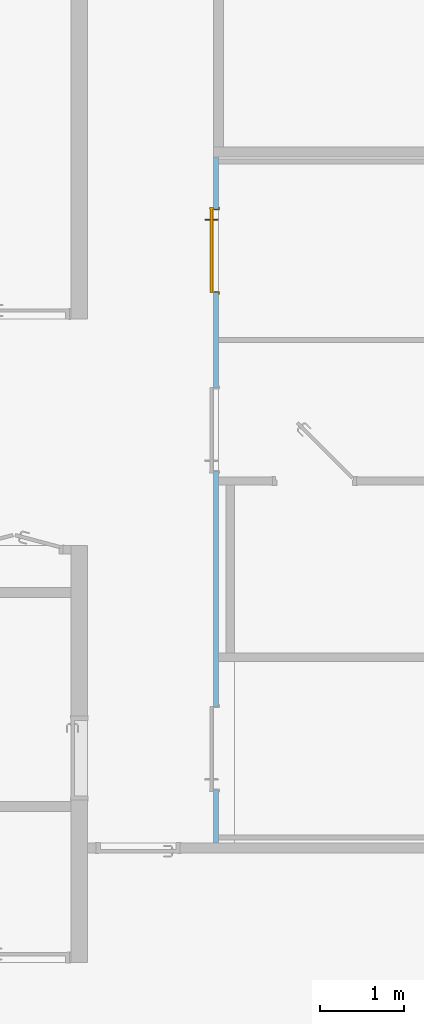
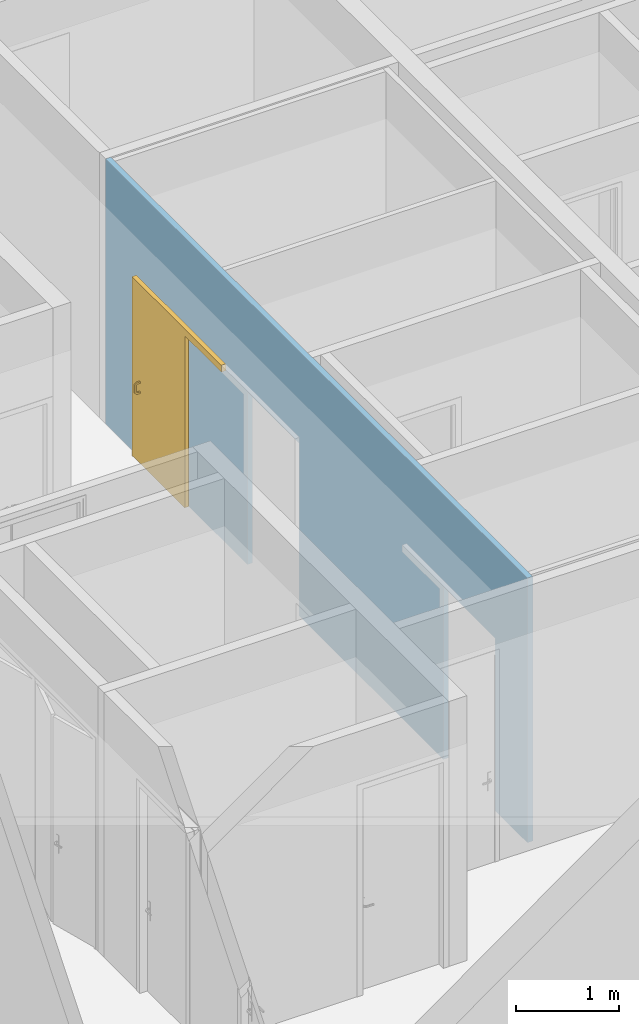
# One storey, part 198 of 240: 1 door, 3 openings, plus 1 element that does not belong to this part.
"""IFC2X3 building model written with IfcOpenShell, lengths in centimetres."""

from ifc_helpers import new_model, entity, si_unit, converted_unit, derived_unit, direction, frame, frame_2d, origin, place, context, subcontext, project, spatial, rectangle, extrude, faceted_brep, source, transform, mapped, material, material_list, layer, layer_set, layer_usage, type_object, type_shapes, element, fill, save


model = new_model("IFC2X3")

# Units and contexts
model_context = context("Model", 3, precision=0.001, world=origin(), true_north=direction((6.12303176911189e-17, 1.0)))
body_context = subcontext(model_context, "Body", "Model", "MODEL_VIEW")
ifc_project = project(units=[si_unit("LENGTHUNIT", "METRE", prefix="CENTI"), si_unit("AREAUNIT", "SQUARE_METRE"), si_unit("VOLUMEUNIT", "CUBIC_METRE"), converted_unit("PLANEANGLEUNIT", "DEGREE", entity("IfcRatioMeasure", 0.0174532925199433), si_unit("PLANEANGLEUNIT", "RADIAN"), dimensions=[0, 0, 0, 0, 0, 0, 0]), si_unit("MASSUNIT", "GRAM", prefix="KILO"), derived_unit("MASSDENSITYUNIT", [(si_unit("MASSUNIT", "GRAM", prefix="KILO"), 1), (si_unit("LENGTHUNIT", "METRE"), -3)]), si_unit("TIMEUNIT", "SECOND"), si_unit("FREQUENCYUNIT", "HERTZ"), si_unit("THERMODYNAMICTEMPERATUREUNIT", "DEGREE_CELSIUS"), derived_unit("THERMALTRANSMITTANCEUNIT", [(si_unit("MASSUNIT", "GRAM", prefix="KILO"), 1), (si_unit("THERMODYNAMICTEMPERATUREUNIT", "KELVIN"), -1), (si_unit("TIMEUNIT", "SECOND"), -3)]), derived_unit("VOLUMETRICFLOWRATEUNIT", [(si_unit("LENGTHUNIT", "METRE"), 3), (si_unit("TIMEUNIT", "SECOND"), -1)]), si_unit("ELECTRICCURRENTUNIT", "AMPERE"), si_unit("ELECTRICVOLTAGEUNIT", "VOLT"), si_unit("POWERUNIT", "WATT"), si_unit("FORCEUNIT", "NEWTON", prefix="KILO"), si_unit("ILLUMINANCEUNIT", "LUX"), si_unit("LUMINOUSFLUXUNIT", "LUMEN"), si_unit("LUMINOUSINTENSITYUNIT", "CANDELA"), derived_unit("USERDEFINED", [(si_unit("MASSUNIT", "GRAM", prefix="KILO"), -1), (si_unit("LENGTHUNIT", "METRE"), -2), (si_unit("TIMEUNIT", "SECOND"), 3), (si_unit("LUMINOUSFLUXUNIT", "LUMEN"), 1)]), derived_unit("LINEARVELOCITYUNIT", [(si_unit("LENGTHUNIT", "METRE"), 1), (si_unit("TIMEUNIT", "SECOND"), -1)]), si_unit("PRESSUREUNIT", "PASCAL"), derived_unit("USERDEFINED", [(si_unit("LENGTHUNIT", "METRE"), -2), (si_unit("MASSUNIT", "GRAM", prefix="KILO"), 1), (si_unit("TIMEUNIT", "SECOND"), -2)])], contexts=[model_context])

# Site, building, storey
site_placement = place(None, frame((-2781.94577612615, 7442.24238424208, 0.0)))
site = spatial("IfcSite", under=ifc_project, at=site_placement, Name="Default", CompositionType="ELEMENT")
building_placement = place(site_placement, origin())
building = spatial("IfcBuilding", under=site, at=building_placement, CompositionType="ELEMENT")
storey_placement = place(building_placement, origin())
storey = spatial("IfcBuildingStorey", under=building, at=storey_placement, Name="N00 - COO", CompositionType="ELEMENT", Elevation=0.0)

# Wall, openings, door
ifc_material_1 = material(Name="Plastique, blanc opaque")
ifc_layer_1 = layer(ifc_material_1, 0.2)
ifc_material_2 = material(Name="00 - Isolant cloison Frigo")
ifc_layer_2 = layer(ifc_material_2, 5.6)
ifc_layer_3 = layer(ifc_material_1, 0.2)
ifc_layer_set = layer_set([ifc_layer_1, ifc_layer_2, ifc_layer_3], Name="Mur de base:06 - cloisons - cuisine 6cm")
ifc_layer_usage = layer_usage(ifc_layer_set, "AXIS2", "NEGATIVE", 3.0)
wall_type = type_object("IfcWallType", Name="Mur de base:06 - cloisons - cuisine 6cm", PredefinedType="STANDARD", material=ifc_layer_set)
wall_placement = place(building_placement, frame((-10021.8417569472, -2210.35320515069, 0.0), z_axis=(0.0, 0.0, 1.0), x_axis=(0.0, -1.0, 0.0)))
wall = element("IfcWallStandardCase", 1, at=wall_placement, inside=storey, type_object=wall_type, material=ifc_layer_usage, Name="Mur de base:06 - cloisons - cuisine 6cm", ObjectType="Mur de base:06 - cloisons - cuisine 6cm", context=body_context, shape_type="SweptSolid", body=[
    extrude(rectangle(XDim=817.168601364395, YDim=5.99999999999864, at=frame_2d((408.584300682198, -3.75699471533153e-13), x_axis=(-1.0, 0.0))), origin(), (0.0, 0.0, 1.0), 313.0),
])
opening_1_placement = place(wall_placement, frame((61.5219892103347, -3.0, 0.0)))
opening_1 = element("IfcOpeningElement", 2, at=opening_1_placement, cuts=wall, Name="Coulissante - Apparente:PM 0.80m x 2.04m 2:1", ObjectType="Opening", context=body_context, shape_type="SweptSolid", body=[
    extrude(rectangle(XDim=203.999999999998, YDim=99.9999999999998, at=frame_2d((101.999999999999, 49.9999999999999), x_axis=(1.0, 0.0))), frame((0.0, 0.0, 0.0), z_axis=(0.0, 1.0, 0.0), x_axis=(0.0, 0.0, 1.0)), (0.0, 0.0, 1.0), 6.0),
])
opening_2_placement = place(wall_placement, frame((274.713351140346, -3.0, 0.0)))
element("IfcOpeningElement", 3, at=opening_2_placement, cuts=wall, Name="Coulissante - Apparente:PM 0.80m x 2.04m 2:1", ObjectType="Opening", context=body_context, shape_type="SweptSolid", body=[
    extrude(rectangle(XDim=203.999999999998, YDim=99.9999999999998, at=frame_2d((101.999999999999, 49.9999999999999), x_axis=(1.0, 0.0))), frame((0.0, 0.0, 0.0), z_axis=(0.0, 1.0, 0.0), x_axis=(0.0, 0.0, 1.0)), (0.0, 0.0, 1.0), 6.0),
])
opening_3_placement = place(wall_placement, frame((654.460651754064, -3.0, 0.0)))
element("IfcOpeningElement", 4, at=opening_3_placement, cuts=wall, Name="Coulissante - Apparente:PM 0.80m x 2.04m 2:1", ObjectType="Opening", context=body_context, shape_type="SweptSolid", body=[
    extrude(rectangle(XDim=203.999999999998, YDim=99.9999999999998, at=frame_2d((101.999999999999, 49.9999999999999), x_axis=(1.0, 0.0))), frame((0.0, 0.0, 0.0), z_axis=(0.0, 1.0, 0.0), x_axis=(0.0, 0.0, 1.0)), (0.0, 0.0, 1.0), 6.0),
])
ifc_material_3 = material(Name="Bois - Panneau de porte")
ifc_material_4 = material(Name="Bois - Cadre de porte")
ifc_material_list_1 = material_list([ifc_material_3, ifc_material_4])
ifc_material_list_2 = material_list([ifc_material_3, ifc_material_4])
door_style = type_object("IfcDoorStyle", Name="PM 0.80m x 2.04m 2", ConstructionType="NOTDEFINED", OperationType="NOTDEFINED", ParameterTakesPrecedence=False, Sizeable=False, material=ifc_material_list_2)
shared_shape = source(origin(), body_context, "Body", "Brep", [
    faceted_brep([(13.1967625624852, -0.499999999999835, 97.068339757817), (12.7606846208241, -0.499999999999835, 96.9), (12.7606846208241, -0.499999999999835, 95.1000000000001), (13.1967625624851, -0.499999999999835, 94.931660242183), (13.6606846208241, -0.499999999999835, 94.874401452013), (14.1246066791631, -0.499999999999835, 94.931660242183), (14.5606846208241, -0.499999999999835, 95.1000000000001), (14.5606846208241, -0.499999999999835, 96.9), (14.1246066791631, -0.499999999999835, 97.068339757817), (13.6606846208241, -0.499999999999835, 97.1255985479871), (13.1967625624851, -0.499999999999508, 82.9316602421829), (13.6606846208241, -0.499999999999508, 82.8744014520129), (14.1246066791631, -0.499999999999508, 82.9316602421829), (14.5606846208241, -0.499999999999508, 83.1), (14.5606846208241, -0.499999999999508, 84.8999999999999), (14.124606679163, -0.499999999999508, 85.0683397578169), (13.6606846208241, -0.499999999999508, 85.125598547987), (13.1967625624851, -0.499999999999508, 85.0683397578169), (12.7606846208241, -0.499999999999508, 84.8999999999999), (12.7606846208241, -0.499999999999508, 83.1), (14.5606846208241, 3.37279220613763, 83.1), (14.5606846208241, 5.40000000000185, 85.1272077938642), (14.5606846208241, 5.40000000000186, 94.8727922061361), (14.5606846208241, 3.37279220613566, 96.9), (14.5606846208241, 2.62720779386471, 95.1000000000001), (14.5606846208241, 3.60000000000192, 94.1272077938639), (14.5606846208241, 3.60000000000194, 85.8727922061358), (14.5606846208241, 2.62720779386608, 84.8999999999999), (14.1246066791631, 3.44252081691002, 97.068339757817), (13.6606846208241, 3.46623818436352, 97.1255985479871), (13.1967625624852, 3.44252081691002, 97.0683397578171), (12.7606846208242, 3.37279220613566, 96.9), (12.7606846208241, 5.40000000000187, 94.8727922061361), (12.7606846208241, 5.40000000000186, 85.1272077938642), (12.7606846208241, 3.37279220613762, 83.1), (12.7606846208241, 2.62720779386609, 84.8999999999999), (12.7606846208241, 3.60000000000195, 85.8727922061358), (12.7606846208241, 3.60000000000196, 94.1272077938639), (12.7606846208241, 2.62720779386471, 95.1000000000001), (13.1967625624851, 2.55747918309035, 94.9316602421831), (13.6606846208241, 2.53376181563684, 94.874401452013), (14.124606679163, 2.55747918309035, 94.931660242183), (14.1246066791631, 5.56833975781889, 94.9425208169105), (13.6606846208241, 5.62559854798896, 94.9662381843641), (13.1967625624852, 5.56833975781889, 94.9425208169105), (13.1967625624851, 3.43166024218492, 94.0574791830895), (13.6606846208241, 3.37440145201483, 94.0337618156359), (14.124606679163, 3.4316602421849, 94.0574791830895), (14.1246066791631, 5.56833975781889, 85.0574791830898), (13.6606846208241, 5.62559854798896, 85.0337618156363), (13.1967625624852, 5.56833975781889, 85.0574791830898), (13.1967625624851, 3.43166024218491, 85.9425208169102), (13.6606846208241, 3.37440145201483, 85.9662381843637), (14.124606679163, 3.43166024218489, 85.9425208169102), (14.1246066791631, 3.44252081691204, 82.9316602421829), (13.6606846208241, 3.46623818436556, 82.8744014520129), (13.1967625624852, 3.44252081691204, 82.9316602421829), (13.1967625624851, 2.55747918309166, 85.0683397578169), (13.6606846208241, 2.53376181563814, 85.125598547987), (14.124606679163, 2.55747918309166, 85.068339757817)], [[[0, 1, 2, 3, 4, 5, 6, 7, 8, 9]], [[10, 11, 12, 13, 14, 15, 16, 17, 18, 19]], [[13, 20, 21, 22, 23, 7, 6, 24, 25, 26, 27, 14]], [[23, 28, 8, 7]], [[8, 28, 29, 9]], [[30, 0, 9, 29]], [[0, 30, 31, 1]], [[1, 31, 32, 33, 34, 19, 18, 35, 36, 37, 38, 2]], [[38, 39, 3, 2]], [[4, 3, 39, 40]], [[41, 24, 6, 5]], [[41, 5, 4, 40]], [[22, 42, 28, 23]], [[28, 42, 43, 29]], [[43, 44, 30, 29]], [[44, 32, 31, 30]], [[37, 45, 39, 38]], [[39, 45, 46, 40]], [[47, 25, 24, 41]], [[41, 40, 46, 47]], [[21, 48, 42, 22]], [[42, 48, 49, 43]], [[49, 50, 44, 43]], [[50, 33, 32, 44]], [[36, 51, 45, 37]], [[46, 45, 51, 52]], [[53, 26, 25, 47]], [[53, 47, 46, 52]], [[20, 54, 48, 21]], [[48, 54, 55, 49]], [[55, 56, 50, 49]], [[56, 34, 33, 50]], [[35, 57, 51, 36]], [[51, 57, 58, 52]], [[59, 27, 26, 53]], [[53, 52, 58, 59]], [[13, 12, 54, 20]], [[55, 54, 12, 11]], [[10, 19, 34, 56]], [[10, 56, 55, 11]], [[18, 17, 57, 35]], [[58, 57, 17, 16]], [[15, 14, 27, 59]], [[59, 58, 16, 15]]]),
    faceted_brep([(13.6606846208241, -4.49999999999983, 97.1255985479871), (14.1246066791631, -4.49999999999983, 97.068339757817), (14.5606846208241, -4.49999999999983, 96.9), (14.5606846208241, -4.49999999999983, 95.1000000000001), (14.1246066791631, -4.49999999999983, 94.931660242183), (13.6606846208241, -4.49999999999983, 94.874401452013), (13.1967625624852, -4.49999999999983, 94.931660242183), (12.7606846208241, -4.49999999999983, 95.1000000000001), (12.7606846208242, -4.49999999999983, 96.9), (13.1967625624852, -4.49999999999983, 97.068339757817), (13.6606846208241, -4.49999999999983, 82.8744014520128), (13.1967625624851, -4.49999999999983, 82.9316602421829), (12.7606846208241, -4.49999999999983, 83.1), (12.7606846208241, -4.49999999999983, 84.8999999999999), (13.1967625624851, -4.49999999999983, 85.0683397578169), (13.6606846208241, -4.49999999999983, 85.125598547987), (14.1246066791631, -4.49999999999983, 85.0683397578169), (14.5606846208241, -4.49999999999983, 84.8999999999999), (14.5606846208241, -4.49999999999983, 83.1), (14.1246066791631, -4.49999999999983, 82.9316602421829), (12.7606846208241, -8.37279220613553, 96.9), (13.1967625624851, -8.44252081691, 97.068339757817), (13.6606846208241, -8.46623818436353, 97.1255985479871), (14.1246066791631, -8.44252081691, 97.0683397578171), (14.5606846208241, -8.37279220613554, 96.9), (14.5606846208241, -10.3999999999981, 94.8727922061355), (14.5606846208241, -10.3999999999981, 85.1272077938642), (14.5606846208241, -8.37279220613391, 83.1), (14.5606846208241, -7.62720779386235, 84.8999999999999), (14.5606846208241, -8.59999999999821, 85.8727922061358), (14.5606846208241, -8.59999999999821, 94.1272077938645), (14.5606846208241, -7.62720779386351, 95.1000000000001), (14.1246066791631, -7.55747918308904, 94.931660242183), (13.6606846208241, -7.53376181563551, 94.874401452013), (13.1967625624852, -7.55747918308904, 94.931660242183), (12.7606846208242, -7.62720779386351, 95.1000000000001), (12.7606846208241, -8.3727922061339, 83.1), (12.7606846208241, -10.3999999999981, 85.1272077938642), (12.7606846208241, -10.3999999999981, 94.8727922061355), (12.7606846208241, -8.59999999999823, 94.1272077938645), (12.7606846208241, -8.59999999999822, 85.8727922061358), (12.7606846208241, -7.62720779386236, 84.8999999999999), (13.1967625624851, -10.5683397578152, 94.9425208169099), (13.6606846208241, -10.6255985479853, 94.9662381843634), (14.1246066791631, -10.5683397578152, 94.9425208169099), (14.1246066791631, -8.43166024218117, 94.0574791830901), (13.6606846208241, -8.3744014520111, 94.0337618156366), (13.1967625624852, -8.43166024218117, 94.0574791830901), (13.1967625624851, -10.5683397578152, 85.0574791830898), (13.6606846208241, -10.6255985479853, 85.0337618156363), (14.124606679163, -10.5683397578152, 85.0574791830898), (14.1246066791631, -8.43166024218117, 85.9425208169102), (13.6606846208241, -8.3744014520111, 85.9662381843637), (13.1967625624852, -8.43166024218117, 85.9425208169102), (13.1967625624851, -8.44252081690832, 82.9316602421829), (13.6606846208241, -8.46623818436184, 82.8744014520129), (14.124606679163, -8.44252081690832, 82.9316602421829), (14.1246066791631, -7.55747918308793, 85.0683397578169), (13.6606846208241, -7.53376181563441, 85.125598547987), (13.1967625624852, -7.55747918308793, 85.0683397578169)], [[[0, 1, 2, 3, 4, 5, 6, 7, 8, 9]], [[10, 11, 12, 13, 14, 15, 16, 17, 18, 19]], [[20, 21, 9, 8]], [[9, 21, 22, 0]], [[23, 1, 0, 22]], [[1, 23, 24, 2]], [[2, 24, 25, 26, 27, 18, 17, 28, 29, 30, 31, 3]], [[31, 32, 4, 3]], [[5, 4, 32, 33]], [[34, 35, 7, 6]], [[34, 6, 5, 33]], [[12, 36, 37, 38, 20, 8, 7, 35, 39, 40, 41, 13]], [[38, 42, 21, 20]], [[21, 42, 43, 22]], [[43, 44, 23, 22]], [[44, 25, 24, 23]], [[30, 45, 32, 31]], [[32, 45, 46, 33]], [[47, 39, 35, 34]], [[34, 33, 46, 47]], [[37, 48, 42, 38]], [[42, 48, 49, 43]], [[49, 50, 44, 43]], [[50, 26, 25, 44]], [[29, 51, 45, 30]], [[46, 45, 51, 52]], [[53, 40, 39, 47]], [[53, 47, 46, 52]], [[36, 54, 48, 37]], [[48, 54, 55, 49]], [[55, 56, 50, 49]], [[56, 27, 26, 50]], [[28, 57, 51, 29]], [[51, 57, 58, 52]], [[59, 41, 40, 53]], [[53, 52, 58, 59]], [[12, 11, 54, 36]], [[55, 54, 11, 10]], [[19, 18, 27, 56]], [[19, 56, 55, 10]], [[17, 16, 57, 28]], [[58, 57, 16, 15]], [[14, 13, 41, 59]], [[59, 58, 15, 14]]]),
    faceted_brep([(100.660684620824, 6.0, 0.0), (100.660684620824, 0.0, 0.0), (99.1606846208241, 0.0, 0.0), (99.1606846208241, 6.80000000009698, 0.0), (102.660684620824, 6.80000000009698, 0.0), (102.660684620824, 6.0, 0.0), (102.660684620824, 6.0, 206.0), (-1.33931537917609, 6.0, 206.0), (-1.33931537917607, 6.0, 0.0), (0.660684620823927, 6.0, 0.0), (0.660684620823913, 6.0, 204.0), (100.660684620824, 6.0, 204.0), (102.660684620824, 6.80000000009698, 206.0), (99.1606846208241, 6.80000000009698, 202.499999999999), (2.16068462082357, 6.80000000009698, 202.499999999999), (2.16068462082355, 6.80000000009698, 0.0), (-1.33931537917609, 6.80000000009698, 0.0), (-1.33931537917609, 6.80000000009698, 206.0), (99.1606846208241, 0.0, 202.499999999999), (100.660684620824, 0.0, 204.0), (0.660684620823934, 0.0, 204.0), (0.660684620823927, 0.0, 0.0), (2.16068462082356, 0.0, 0.0), (2.16068462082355, 0.0, 202.499999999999)], [[[0, 1, 2, 3, 4, 5]], [[5, 6, 7, 8, 9, 10, 11, 0]], [[4, 12, 6, 5]], [[3, 13, 14, 15, 16, 17, 12, 4]], [[2, 18, 13, 3]], [[1, 19, 20, 21, 22, 23, 18, 2]], [[0, 11, 19, 1]], [[12, 17, 7, 6]], [[18, 23, 14, 13]], [[11, 10, 20, 19]], [[9, 8, 16, 15, 22, 21]], [[17, 16, 8, 7]], [[23, 22, 15, 14]], [[10, 9, 21, 20]]]),
    faceted_brep([(0.6606846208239, -4.49999999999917, 204.0), (100.660684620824, -4.49999999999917, 204.0), (100.660684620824, -0.49999999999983, 204.0), (0.660684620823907, -0.49999999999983, 204.0), (0.6606846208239, -4.49999999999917, 0.0), (0.660684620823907, -0.49999999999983, 0.0), (100.660684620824, -0.49999999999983, 0.0), (100.660684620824, -4.49999999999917, 0.0)], [[[0, 1, 2, 3]], [[4, 5, 6, 7]], [[3, 5, 4, 0]], [[2, 6, 5, 3]], [[1, 7, 6, 2]], [[0, 4, 7, 1]]]),
    faceted_brep([(-0.839315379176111, -5.0, 212.0), (-0.839315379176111, -5.0, 204.0), (172.160684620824, -5.0, 204.0), (172.160684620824, -5.0, 212.0), (-0.839315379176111, 0.0, 212.0), (172.160684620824, 0.0, 212.0), (172.160684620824, 0.0, 204.0), (-0.839315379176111, 0.0, 204.0)], [[[0, 1, 2, 3]], [[4, 5, 6, 7]], [[3, 5, 4, 0]], [[2, 6, 5, 3]], [[1, 7, 6, 2]], [[0, 4, 7, 1]]]),
    faceted_brep([(-0.839315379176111, -5.0, 204.0), (0.660684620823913, -5.0, 204.0), (0.660684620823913, 0.0, 204.0), (-0.839315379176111, 0.0, 204.0), (-0.839315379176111, -5.0, 0.0), (-0.839315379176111, 0.0, 0.0), (0.660684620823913, 0.0, 0.0), (0.660684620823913, -5.0, 0.0)], [[[0, 1, 2, 3]], [[4, 5, 6, 7]], [[3, 5, 4, 0]], [[2, 6, 5, 3]], [[1, 7, 6, 2]], [[0, 4, 7, 1]]]),
])
type_shapes(door_style, [shared_shape])
door_placement = place(opening_1_placement, frame((-0.660684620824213, 0.0, 0.0)))
door = element("IfcDoor", 5, at=door_placement, inside=storey, type_object=door_style, material=ifc_material_list_1, Name="Coulissante - Apparente:PM 0.80m x 2.04m 2", ObjectType="Coulissante - Apparente:PM 0.80m x 2.04m 2", OverallHeight=203.999999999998, OverallWidth=99.9999999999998, context=body_context, shape_type="MappedRepresentation", body=[
    mapped(shared_shape, transform((0.0, 0.0, 0.0), scale=1.0)),
])
fill(opening_1, door)

save(model, "model.ifc")
